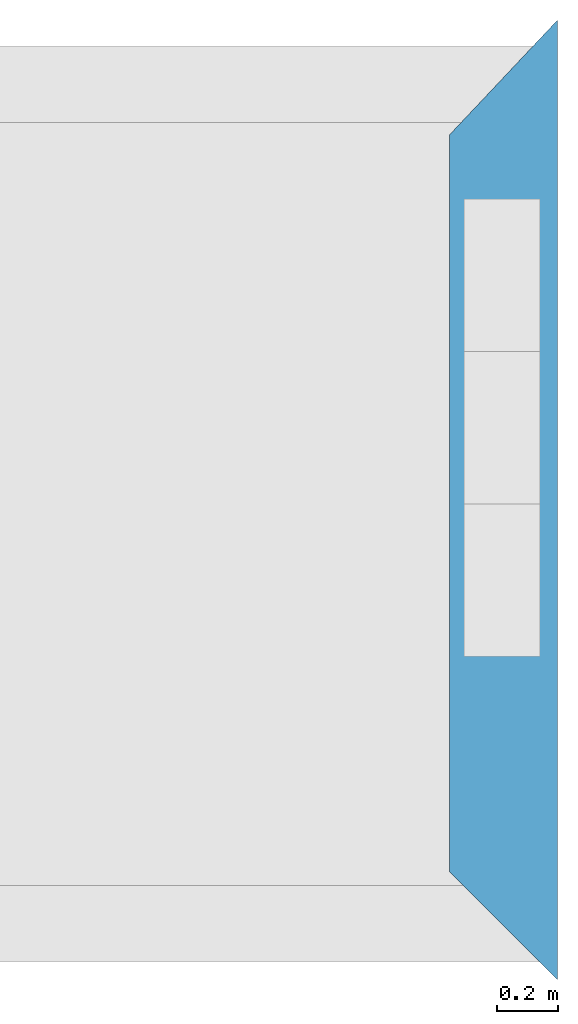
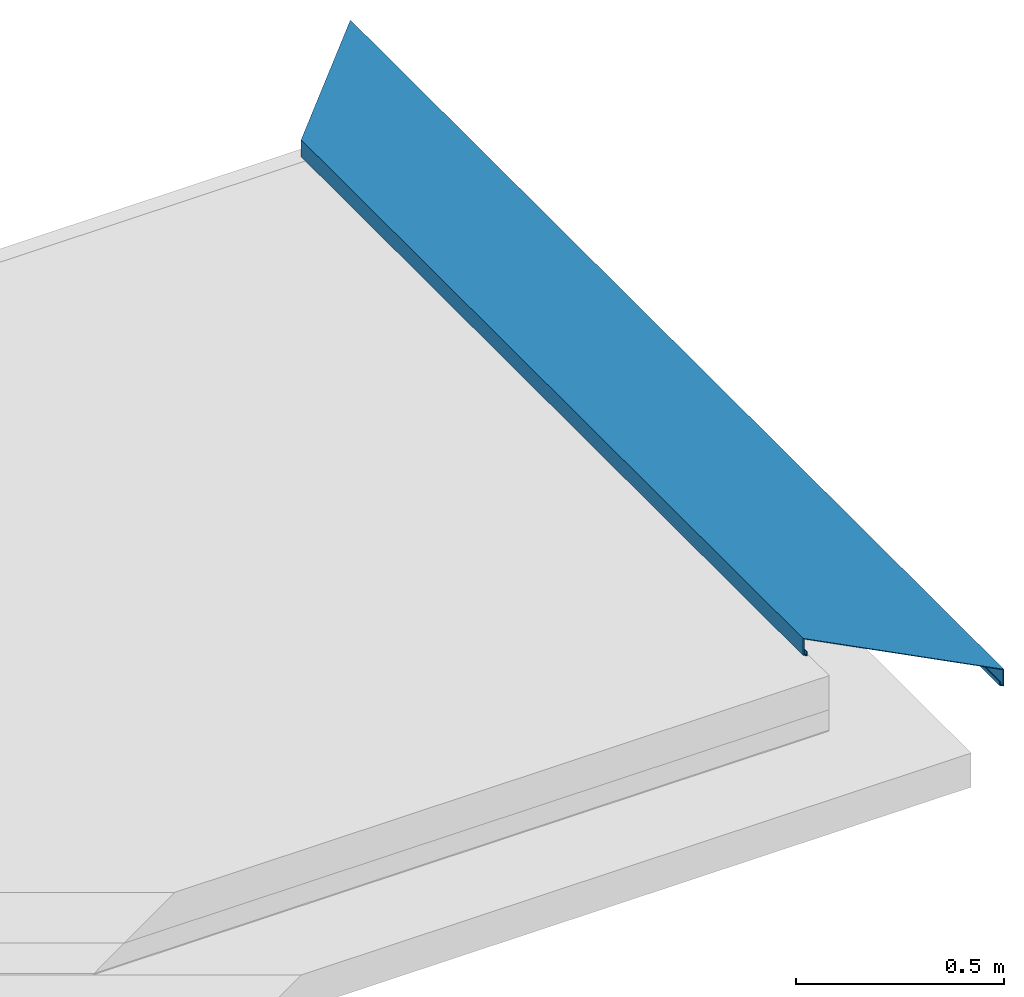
# One storey, part 2 of 2: 1 beam.
"""IFC4 building model written with IfcOpenShell, lengths in centimetres."""

from ifc_helpers import new_model, entity, si_unit, converted_unit, direction, frame, origin, place, context, subcontext, project, spatial, polygons, source, transform, mapped, material, type_object, type_shapes, element, save


model = new_model("IFC4")

# Units and contexts
model_context = context("Model", 3, precision=0.001, world=origin(), true_north=direction((0.0, 1.0)))
body_context = subcontext(model_context, "Body", "Model", "MODEL_VIEW")
ifc_project = project(units=[si_unit("LENGTHUNIT", "METRE", prefix="CENTI"), si_unit("AREAUNIT", "SQUARE_METRE"), si_unit("VOLUMEUNIT", "CUBIC_METRE"), converted_unit("PLANEANGLEUNIT", "DEGREE", entity("IfcPlaneAngleMeasure", 0.017453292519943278), si_unit("PLANEANGLEUNIT", "RADIAN"), dimensions=[0, 0, 0, 0, 0, 0, 0])], contexts=[model_context])

# Site, building, storey
site_placement = place(None, origin())
site = spatial("IfcSite", under=ifc_project, at=site_placement, Name="Default", CompositionType="ELEMENT")
building_placement = place(site_placement, origin())
building = spatial("IfcBuilding", under=site, at=building_placement, CompositionType="ELEMENT")
storey_placement = place(building_placement, frame((0.0, 0.0, 256.0)))
storey = spatial("IfcBuildingStorey", under=building, at=storey_placement, Name="L01__ABOVE Slab", CompositionType="ELEMENT", Elevation=255.9999999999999)

# Beam
ifc_material = material(Name="_SILL__Sill__Metal", Category="Miscellaneous")
beam_type = type_object("IfcBeamType", Name="Structural Framing : wll__PARAPET CAP__Metal__sf : Wall Coping w/ H 50mm Nose, Stamped AL Profile", PredefinedType="BEAM", material=ifc_material)
shared_shape = source(origin(), body_context, "Body", "Tessellation", [
    polygons([(3152.7289147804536, 2157.2200309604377, 277.3999999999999), (3152.7289147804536, 2157.2200309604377, 278.39999999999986), (3152.7289147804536, 2400.1573190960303, 278.39999999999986), (3152.7289147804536, 2400.1573190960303, 277.3999999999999), (3152.328914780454, 2157.6200309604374, 277.3999999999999), (3152.328914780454, 2399.7324603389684, 277.3999999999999), (3152.328914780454, 2157.6200309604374, 281.9999999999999), (3152.328914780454, 2399.7324603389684, 281.9999999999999), (3187.3289147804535, 2122.620030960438, 281.9999999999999), (3187.328914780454, 2436.9076015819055, 281.9999999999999), (3187.3289147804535, 2122.620030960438, 277.3999999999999), (3187.328914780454, 2436.9076015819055, 277.3999999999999), (3186.928914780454, 2123.0200309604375, 277.3999999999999), (3186.9289147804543, 2436.4827428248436, 277.3999999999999), (3186.928914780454, 2123.0200309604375, 278.39999999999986), (3186.9289147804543, 2436.4827428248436, 278.39999999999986), (3186.7289147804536, 2123.2200309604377, 278.39999999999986), (3186.728914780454, 2436.2703134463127, 278.39999999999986), (3186.7289147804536, 2123.2200309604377, 277.1999999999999), (3186.728914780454, 2436.2703134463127, 277.1999999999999), (3187.5289147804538, 2122.420030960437, 277.1999999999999), (3187.528914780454, 2437.1200309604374, 277.1999999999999), (3187.5289147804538, 2122.420030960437, 282.1999999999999), (3187.528914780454, 2437.1200309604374, 282.1999999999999), (3152.1289147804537, 2157.8200309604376, 282.1999999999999), (3152.1289147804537, 2399.520030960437, 282.1999999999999), (3152.1289147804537, 2157.8200309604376, 277.1999999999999), (3152.1289147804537, 2399.520030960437, 277.1999999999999), (3152.9289147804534, 2157.0200309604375, 277.1999999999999), (3152.9289147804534, 2400.369748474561, 277.1999999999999), (3152.9289147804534, 2157.0200309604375, 278.39999999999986), (3152.9289147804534, 2400.369748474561, 278.39999999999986)], [[[1, 2, 3, 4]], [[5, 1, 4, 6]], [[7, 5, 6, 8]], [[9, 7, 8, 10]], [[11, 9, 10, 12]], [[13, 11, 12, 14]], [[15, 13, 14, 16]], [[17, 15, 16, 18]], [[19, 17, 18, 20]], [[21, 19, 20, 22]], [[23, 21, 22, 24]], [[25, 23, 24, 26]], [[27, 25, 26, 28]], [[29, 27, 28, 30]], [[31, 29, 30, 32]], [[2, 31, 32, 3]], [[3, 32, 30, 28, 26, 24, 22, 20, 18, 16, 14, 12, 10, 8, 6, 4]], [[2, 1, 5, 7, 9, 11, 13, 15, 17, 19, 21, 23, 25, 27, 29, 31]]], closed=True),
])
type_shapes(beam_type, [shared_shape])
beam_placement = place(storey_placement, frame((0.0, 0.0, -256.0)))
element("IfcBeam", 1, at=beam_placement, inside=storey, type_object=beam_type, material=ifc_material, Name="Structural Framing : wll__PARAPET CAP__Metal__sf : Wall Coping w/ H 50mm Nose, Stamped AL Profile", PredefinedType="BEAM", context=body_context, shape_type="MappedRepresentation", body=[
    mapped(shared_shape, transform((0.0, 0.0, 0.0), scale=1.0)),
])

save(model, "model.ifc")
